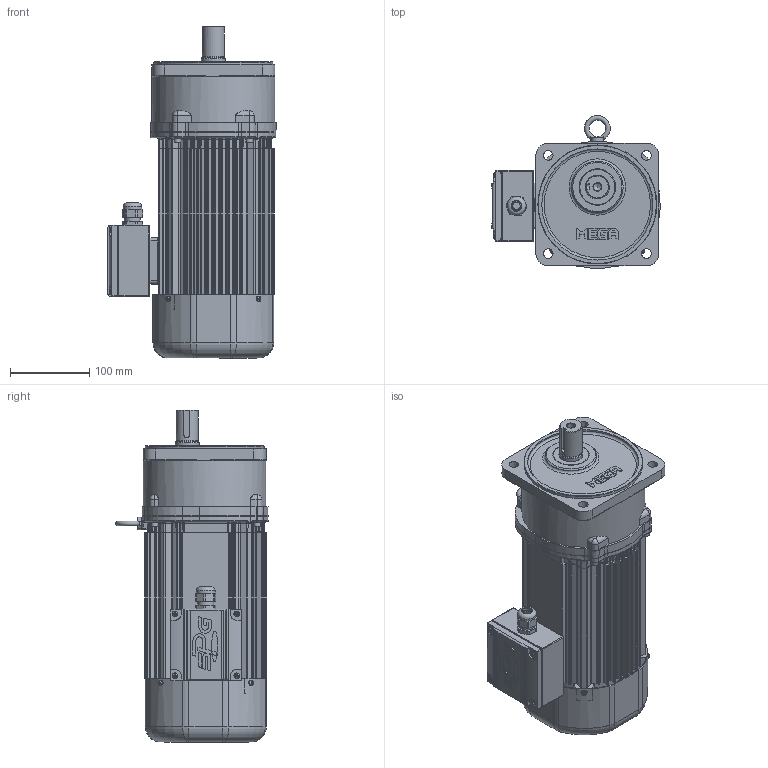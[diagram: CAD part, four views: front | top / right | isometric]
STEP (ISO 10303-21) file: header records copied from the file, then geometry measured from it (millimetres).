
FILE_DESCRIPTION(/* description */ (''),/* implementation_level */ '2;1');
FILE_NAME(/* name */ 'Z:\동력 3D 파일\PMK105_0.75kW_Brake_3D.stp',/* time_stamp */ '2021-11-18T16:38:24+09:00',/* author */ ('jaebok'),/* organization */ (''),/* preprocessor_version */ 'ST-DEVELOPER v18.1',/* originating_system */ 'Autodesk Inventor 2022',/* authorisation */ '');
FILE_SCHEMA (('AUTOMOTIVE_DESIGN { 1 0 10303 214 3 1 1 }'));
Products named in the file (1): 부품10
Bounding box: 212.2 x 192.79 x 418.5 mm (x, y, z)
Volume: 2312134.7 mm3; surface area: 709815.3 mm2
Topology: 2 solids, 32 shells, 3096 faces, 8036 edges, 4867 vertices
Faces by surface type: plane 1064, cylinder 889, bspline 668, torus 247, cone 158, sphere 70
Full cylindrical faces by diameter (mm): 2 x1, 3.25 x1, 3.6 x4, 4 x17, 4.134 x4, 4.2 x4, 5 x23, 5.5 x4, 6 x5, 7 x14, 8 x10, 8.5 x4, 10 x2, 12 x4, 12.5 x1, 15 x1, 19 x1, 20 x2, 20.6 x1, 21 x2, 23.6 x1, 25 x1, 27.6 x1, 27.96 x1, 28 x1, 30 x3, 32 x1, 34.2 x1, 35 x2, 36 x1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
Entity records: 122244 total; most frequent: CARTESIAN_POINT 47403, ORIENTED_EDGE 15658, DIRECTION 14098, EDGE_CURVE 7829, AXIS2_PLACEMENT_3D 5538, VERTEX_POINT 4863, EDGE_LOOP 3292, STYLED_ITEM 3098
